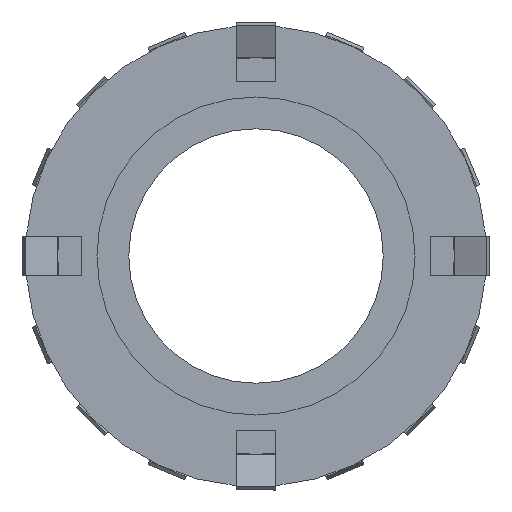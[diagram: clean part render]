
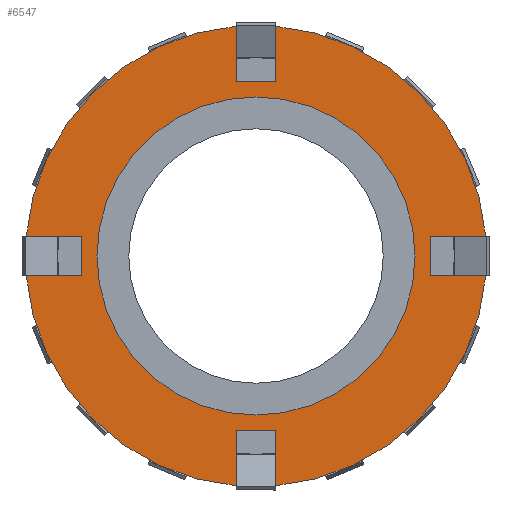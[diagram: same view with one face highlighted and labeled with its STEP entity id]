
A CAD part, left-side view. The second image highlights one B-rep face of the part: STEP entity #6547.
In plain terms, the highlighted planar face has unit normal (-1, 0, 0).
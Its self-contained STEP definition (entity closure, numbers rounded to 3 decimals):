
#301 = CARTESIAN_POINT ( 'NONE',  ( 4., 2.5, 22. ) ) ;
#334 = CIRCLE ( 'NONE', #380, 29. ) ;
#337 = DIRECTION ( 'NONE',  ( 0., -1., 0. ) ) ;
#338 = VECTOR ( 'NONE', #337, 1000. ) ;
#339 = CARTESIAN_POINT ( 'NONE',  ( 4., -28.892, -2.5 ) ) ;
#340 = LINE ( 'NONE', #339, #338 ) ;
#346 = DIRECTION ( 'NONE',  ( 0., -1., 0. ) ) ;
#347 = VECTOR ( 'NONE', #346, 1000. ) ;
#348 = CARTESIAN_POINT ( 'NONE',  ( 4., 28.892, -2.5 ) ) ;
#349 = LINE ( 'NONE', #348, #347 ) ;
#358 = DIRECTION ( 'NONE',  ( 0., 0., -1. ) ) ;
#359 = VECTOR ( 'NONE', #358, 1000. ) ;
#360 = CARTESIAN_POINT ( 'NONE',  ( 4., 2.5, -28.892 ) ) ;
#361 = LINE ( 'NONE', #360, #359 ) ;
#377 = DIRECTION ( 'NONE',  ( 0., 0., 1. ) ) ;
#378 = DIRECTION ( 'NONE',  ( -1., 0., 0. ) ) ;
#379 = CARTESIAN_POINT ( 'NONE',  ( 4., 0., 0. ) ) ;
#380 = AXIS2_PLACEMENT_3D ( 'NONE', #379, #378, #377 ) ;
#381 = VECTOR ( 'NONE', #470, 1000. ) ;
#382 = CARTESIAN_POINT ( 'NONE',  ( 4., -22., 2.5 ) ) ;
#383 = LINE ( 'NONE', #382, #381 ) ;
#384 = CARTESIAN_POINT ( 'NONE',  ( 4., -22., -2.5 ) ) ;
#397 = DIRECTION ( 'NONE',  ( 0., 0., -1. ) ) ;
#398 = VECTOR ( 'NONE', #397, 1000. ) ;
#399 = CARTESIAN_POINT ( 'NONE',  ( 4., 2.5, 28.892 ) ) ;
#400 = LINE ( 'NONE', #399, #398 ) ;
#410 = DIRECTION ( 'NONE',  ( 0., -1., 0. ) ) ;
#411 = VECTOR ( 'NONE', #410, 1000. ) ;
#412 = CARTESIAN_POINT ( 'NONE',  ( 4., 2.5, 22. ) ) ;
#413 = LINE ( 'NONE', #412, #411 ) ;
#414 = CARTESIAN_POINT ( 'NONE',  ( 4., -2.5, 22. ) ) ;
#415 = DIRECTION ( 'NONE',  ( 0., 0., 1. ) ) ;
#416 = VECTOR ( 'NONE', #415, 1000. ) ;
#417 = CARTESIAN_POINT ( 'NONE',  ( 4., -2.5, 28.892 ) ) ;
#418 = LINE ( 'NONE', #417, #416 ) ;
#420 = CARTESIAN_POINT ( 'NONE',  ( 4., -28.892, 2.5 ) ) ;
#421 = DIRECTION ( 'NONE',  ( 0., 1., 0. ) ) ;
#422 = VECTOR ( 'NONE', #421, 1000. ) ;
#423 = CARTESIAN_POINT ( 'NONE',  ( 4., -28.892, 2.5 ) ) ;
#424 = LINE ( 'NONE', #423, #422 ) ;
#460 = DIRECTION ( 'NONE',  ( 0., 1., 0. ) ) ;
#461 = VECTOR ( 'NONE', #460, 1000. ) ;
#462 = CARTESIAN_POINT ( 'NONE',  ( 4., 28.892, 2.5 ) ) ;
#463 = LINE ( 'NONE', #462, #461 ) ;
#464 = CARTESIAN_POINT ( 'NONE',  ( 4., 22., -2.5 ) ) ;
#465 = DIRECTION ( 'NONE',  ( 0., 0., 1. ) ) ;
#466 = VECTOR ( 'NONE', #465, 1000. ) ;
#467 = CARTESIAN_POINT ( 'NONE',  ( 4., 22., -2.5 ) ) ;
#468 = LINE ( 'NONE', #467, #466 ) ;
#469 = CARTESIAN_POINT ( 'NONE',  ( 4., -22., 2.5 ) ) ;
#470 = DIRECTION ( 'NONE',  ( 0., 0., -1. ) ) ;
#472 = CARTESIAN_POINT ( 'NONE',  ( 4., -2.5, 28.892 ) ) ;
#502 = CARTESIAN_POINT ( 'NONE',  ( 4., 22., 2.5 ) ) ;
#1251 = DIRECTION ( 'NONE',  ( 0., 0., 1. ) ) ;
#1252 = DIRECTION ( 'NONE',  ( -1., 0., 0. ) ) ;
#1253 = CARTESIAN_POINT ( 'NONE',  ( 4., 0., 0. ) ) ;
#1254 = AXIS2_PLACEMENT_3D ( 'NONE', #1253, #1252, #1251 ) ;
#1255 = CIRCLE ( 'NONE', #1254, 20. ) ;
#1274 = DIRECTION ( 'NONE',  ( 0., 0., 1. ) ) ;
#1325 = DIRECTION ( 'NONE',  ( 0., 0., 1. ) ) ;
#1326 = DIRECTION ( 'NONE',  ( -1., 0., 0. ) ) ;
#1327 = AXIS2_PLACEMENT_3D ( 'NONE', #1332, #1326, #1325 ) ;
#1328 = CIRCLE ( 'NONE', #1327, 29. ) ;
#1332 = CARTESIAN_POINT ( 'NONE',  ( 4., 0., 0. ) ) ;
#1336 = DIRECTION ( 'NONE',  ( -1., 0., 0. ) ) ;
#1337 = CARTESIAN_POINT ( 'NONE',  ( 4., 0., 0. ) ) ;
#1338 = AXIS2_PLACEMENT_3D ( 'NONE', #1337, #1336, #1274 ) ;
#1339 = CIRCLE ( 'NONE', #1338, 29. ) ;
#1424 = CARTESIAN_POINT ( 'NONE',  ( 4., 28.892, -2.5 ) ) ;
#1425 = CARTESIAN_POINT ( 'NONE',  ( 4., 2.5, -28.892 ) ) ;
#1440 = CARTESIAN_POINT ( 'NONE',  ( 4., 28.892, 2.5 ) ) ;
#1450 = CARTESIAN_POINT ( 'NONE',  ( 4., 2.5, 28.892 ) ) ;
#3211 = FACE_OUTER_BOUND ( 'NONE', #6556, .T. ) ;
#3212 = FACE_BOUND ( 'NONE', #6533, .T. ) ;
#3229 = CARTESIAN_POINT ( 'NONE',  ( 4., -28.892, -2.5 ) ) ;
#3230 = CARTESIAN_POINT ( 'NONE',  ( 4., -2.5, -28.892 ) ) ;
#3231 = DIRECTION ( 'NONE',  ( 0., 0., 1. ) ) ;
#3232 = DIRECTION ( 'NONE',  ( -1., 0., 0. ) ) ;
#3233 = CARTESIAN_POINT ( 'NONE',  ( 4., 0., 0. ) ) ;
#3234 = AXIS2_PLACEMENT_3D ( 'NONE', #3233, #3232, #3231 ) ;
#3235 = CIRCLE ( 'NONE', #3234, 29. ) ;
#3276 = CARTESIAN_POINT ( 'NONE',  ( 4., 2.5, -22. ) ) ;
#3277 = CARTESIAN_POINT ( 'NONE',  ( 4., -2.5, -22. ) ) ;
#3278 = DIRECTION ( 'NONE',  ( 0., 1., 0. ) ) ;
#3279 = VECTOR ( 'NONE', #3278, 1000. ) ;
#3280 = CARTESIAN_POINT ( 'NONE',  ( 4., -2.5, -22. ) ) ;
#3281 = LINE ( 'NONE', #3280, #3279 ) ;
#3286 = DIRECTION ( 'NONE',  ( 0., 0., 1. ) ) ;
#3287 = VECTOR ( 'NONE', #3286, 1000. ) ;
#3288 = CARTESIAN_POINT ( 'NONE',  ( 4., -2.5, -28.892 ) ) ;
#3289 = LINE ( 'NONE', #3288, #3287 ) ;
#3291 = DIRECTION ( 'NONE',  ( 0., 0., -1. ) ) ;
#3292 = DIRECTION ( 'NONE',  ( 1., 0., 0. ) ) ;
#3293 = CARTESIAN_POINT ( 'NONE',  ( 4., 29., 0. ) ) ;
#3294 = AXIS2_PLACEMENT_3D ( 'NONE', #3293, #3292, #3291 ) ;
#3295 = PLANE ( 'NONE',  #3294 ) ;
#3386 = CARTESIAN_POINT ( 'NONE',  ( 4., 0., -20. ) ) ;
#3387 = CARTESIAN_POINT ( 'NONE',  ( 4., 0., 20. ) ) ;
#3396 = DIRECTION ( 'NONE',  ( 0., 0., 1. ) ) ;
#3397 = DIRECTION ( 'NONE',  ( -1., 0., 0. ) ) ;
#3398 = AXIS2_PLACEMENT_3D ( 'NONE', #3445, #3397, #3396 ) ;
#3399 = CIRCLE ( 'NONE', #3398, 20. ) ;
#3445 = CARTESIAN_POINT ( 'NONE',  ( 4., 0., 0. ) ) ;
#4607 = VERTEX_POINT ( 'NONE', #472 ) ;
#4611 = EDGE_CURVE ( 'NONE', #4612, #4607, #334, .T. ) ;
#4612 = VERTEX_POINT ( 'NONE', #420 ) ;
#4620 = EDGE_CURVE ( 'NONE', #4716, #6574, #340, .T. ) ;
#4621 = ORIENTED_EDGE ( 'NONE', *, *, #4620, .F. ) ;
#4654 = EDGE_CURVE ( 'NONE', #6560, #5337, #361, .T. ) ;
#4659 = EDGE_CURVE ( 'NONE', #4612, #4719, #424, .T. ) ;
#4660 = ORIENTED_EDGE ( 'NONE', *, *, #4611, .T. ) ;
#4661 = ORIENTED_EDGE ( 'NONE', *, *, #4662, .F. ) ;
#4662 = EDGE_CURVE ( 'NONE', #4663, #4607, #418, .T. ) ;
#4663 = VERTEX_POINT ( 'NONE', #414 ) ;
#4664 = ORIENTED_EDGE ( 'NONE', *, *, #4665, .F. ) ;
#4665 = EDGE_CURVE ( 'NONE', #4674, #4663, #413, .T. ) ;
#4674 = VERTEX_POINT ( 'NONE', #301 ) ;
#4675 = ORIENTED_EDGE ( 'NONE', *, *, #4698, .F. ) ;
#4692 = ORIENTED_EDGE ( 'NONE', *, *, #4659, .F. ) ;
#4698 = EDGE_CURVE ( 'NONE', #5315, #4674, #400, .T. ) ;
#4700 = EDGE_CURVE ( 'NONE', #5339, #4722, #349, .T. ) ;
#4701 = ORIENTED_EDGE ( 'NONE', *, *, #5374, .T. ) ;
#4702 = ORIENTED_EDGE ( 'NONE', *, *, #4654, .F. ) ;
#4716 = VERTEX_POINT ( 'NONE', #384 ) ;
#4717 = ORIENTED_EDGE ( 'NONE', *, *, #4718, .F. ) ;
#4718 = EDGE_CURVE ( 'NONE', #4719, #4716, #383, .T. ) ;
#4719 = VERTEX_POINT ( 'NONE', #469 ) ;
#4720 = ORIENTED_EDGE ( 'NONE', *, *, #4721, .F. ) ;
#4721 = EDGE_CURVE ( 'NONE', #4722, #4727, #468, .T. ) ;
#4722 = VERTEX_POINT ( 'NONE', #464 ) ;
#4723 = ORIENTED_EDGE ( 'NONE', *, *, #4700, .F. ) ;
#4724 = ORIENTED_EDGE ( 'NONE', *, *, #5319, .T. ) ;
#4725 = ORIENTED_EDGE ( 'NONE', *, *, #4726, .F. ) ;
#4726 = EDGE_CURVE ( 'NONE', #4727, #5332, #463, .T. ) ;
#4727 = VERTEX_POINT ( 'NONE', #502 ) ;
#5315 = VERTEX_POINT ( 'NONE', #1450 ) ;
#5319 = EDGE_CURVE ( 'NONE', #5315, #5332, #1328, .T. ) ;
#5332 = VERTEX_POINT ( 'NONE', #1440 ) ;
#5337 = VERTEX_POINT ( 'NONE', #1425 ) ;
#5339 = VERTEX_POINT ( 'NONE', #1424 ) ;
#5374 = EDGE_CURVE ( 'NONE', #5339, #5337, #1339, .T. ) ;
#5382 = EDGE_CURVE ( 'NONE', #6647, #6648, #1255, .T. ) ;
#6533 = EDGE_LOOP ( 'NONE', ( #6549, #6555 ) ) ;
#6539 = ORIENTED_EDGE ( 'NONE', *, *, #6572, .T. ) ;
#6547 = ADVANCED_FACE ( 'NONE', ( #3212, #3211 ), #3295, .F. ) ;
#6549 = ORIENTED_EDGE ( 'NONE', *, *, #5382, .F. ) ;
#6551 = ORIENTED_EDGE ( 'NONE', *, *, #6553, .F. ) ;
#6553 = EDGE_CURVE ( 'NONE', #6573, #6559, #3289, .T. ) ;
#6555 = ORIENTED_EDGE ( 'NONE', *, *, #6637, .F. ) ;
#6556 = EDGE_LOOP ( 'NONE', ( #6557, #6551, #6539, #4621, #4717, #4692, #4660, #4661, #4664, #4675, #4724, #4725, #4720, #4723, #4701, #4702 ) ) ;
#6557 = ORIENTED_EDGE ( 'NONE', *, *, #6558, .F. ) ;
#6558 = EDGE_CURVE ( 'NONE', #6559, #6560, #3281, .T. ) ;
#6559 = VERTEX_POINT ( 'NONE', #3277 ) ;
#6560 = VERTEX_POINT ( 'NONE', #3276 ) ;
#6572 = EDGE_CURVE ( 'NONE', #6573, #6574, #3235, .T. ) ;
#6573 = VERTEX_POINT ( 'NONE', #3230 ) ;
#6574 = VERTEX_POINT ( 'NONE', #3229 ) ;
#6637 = EDGE_CURVE ( 'NONE', #6648, #6647, #3399, .T. ) ;
#6647 = VERTEX_POINT ( 'NONE', #3387 ) ;
#6648 = VERTEX_POINT ( 'NONE', #3386 ) ;
